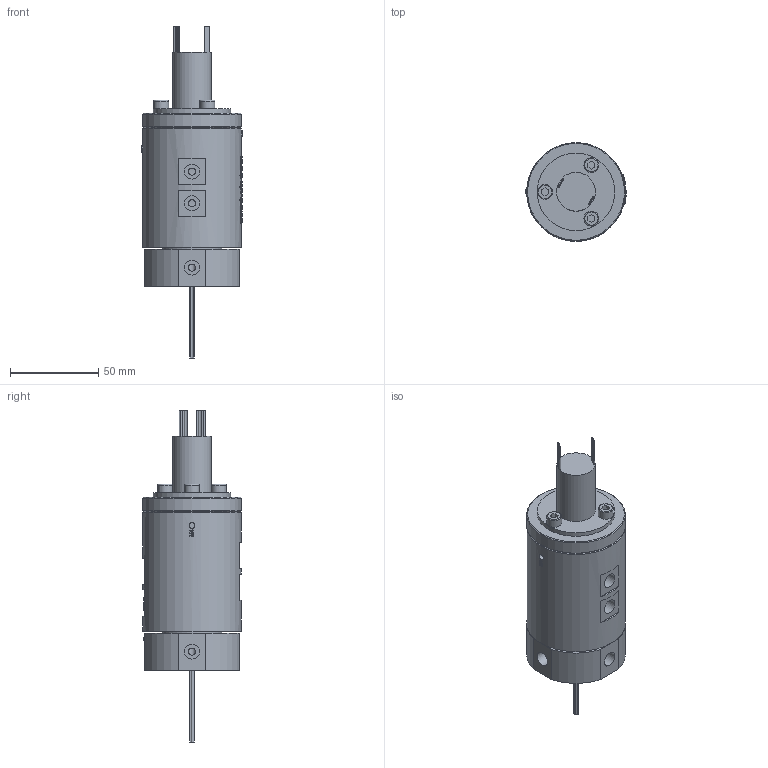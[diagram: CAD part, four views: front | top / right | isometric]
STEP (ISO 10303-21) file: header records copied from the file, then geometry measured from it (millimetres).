
FILE_DESCRIPTION(/* description */ (''),/* implementation_level */ '2;1');
FILE_NAME(/* name */ 'HQ0401-24M.stp',/* time_stamp */ '2025-02-14T11:54:11+08:00',/* author */ (''),/* organization */ (''),/* preprocessor_version */ 'ST-DEVELOPER v16.7',/* originating_system */ 'SIEMENS PLM Software NX 12.0',/* authorisation */ '');
FILE_SCHEMA (('AUTOMOTIVE_DESIGN { 1 0 10303 214 3 1 1 1 }'));
Length unit declared in the file: millimetre
Products named in the file (1): HX0540E8A2D8nghb
Bounding box: 57 x 56 x 188.4 mm (x, y, z)
Volume: 245322.2 mm3; surface area: 38274.4 mm2
Topology: 1 solids, 4 shells, 1001 faces, 2629 edges, 1762 vertices
Faces by surface type: plane 480, extrusion 391, cylinder 90, bspline 30, cone 7, torus 3
Full cylindrical faces by diameter (mm): 0.8 x16, 3.4 x6, 4 x12, 4.1 x4, 4.2 x4, 5 x3, 5.5 x3, 7.8 x1, 8 x1, 8.5 x11, 22 x1, 34 x1, 44 x1, 56 x2
Entity records: 36508 total; most frequent: CARTESIAN_POINT 15219, ORIENTED_EDGE 4996, DIRECTION 2806, EDGE_CURVE 2498, B_SPLINE_CURVE_WITH_KNOTS 1945, VERTEX_POINT 1719, EDGE_LOOP 1211, VECTOR 1020
